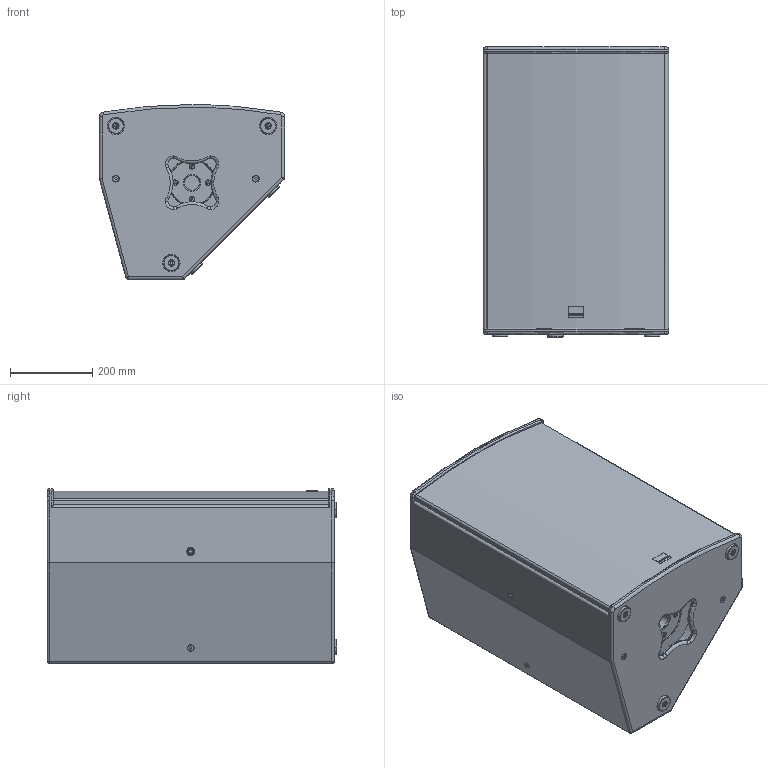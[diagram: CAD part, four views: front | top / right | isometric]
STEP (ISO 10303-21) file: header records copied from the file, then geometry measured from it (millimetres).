
FILE_DESCRIPTION (( 'STEP AP203' ), '1' );
FILE_NAME ('SEEBURG_A8.STEP', '2012-09-28T08:11:19', ( 'Fabian' ), ( '' ), 'SwSTEP 2.0', 'SolidWorks 2009', '' );
FILE_SCHEMA (( 'CONFIG_CONTROL_DESIGN' ));
Length unit declared in the file: millimetre
Products named in the file (2): A8; SEEBURG_A8
Assembly tree (1 placements, depth 2):
  SEEBURG_A8
    A8
Bounding box: 450 x 704 x 425 mm (x, y, z)
Surface area: 3409562.5 mm2 (no closed solid volume)
Topology: 0 solids, 32 shells, 918 faces, 2144 edges, 1328 vertices
Faces by surface type: cylinder 352, plane 274, torus 170, cone 105, sphere 11, bspline 6
Entity records: 31364 total; most frequent: CARTESIAN_POINT 10035, DIRECTION 4695, ORIENTED_EDGE 4264, EDGE_CURVE 2136, AXIS2_PLACEMENT_3D 1872, VERTEX_POINT 1324, EDGE_LOOP 1028, CIRCLE 956
